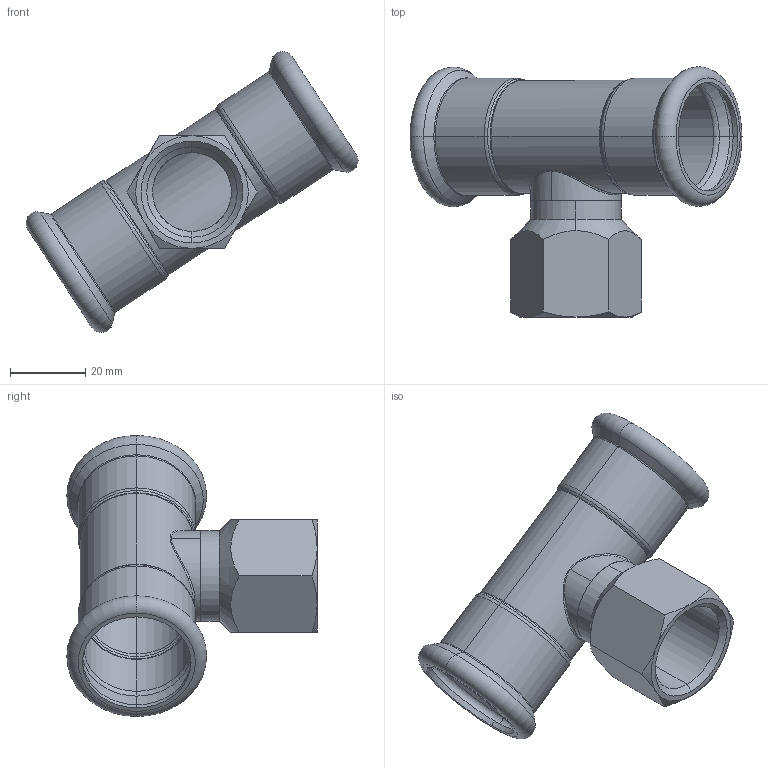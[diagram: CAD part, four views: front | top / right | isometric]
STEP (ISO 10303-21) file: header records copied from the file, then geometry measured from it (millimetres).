
FILE_DESCRIPTION (( 'STEP AP203' ), '1' );
FILE_NAME ('GDA5247.STEP', '2019-01-14T00:55:25', ( '' ), ( '' ), 'SwSTEP 2.0', 'SolidWorks 2015', '' );
FILE_SCHEMA (( 'CONFIG_CONTROL_DESIGN' ));
Length unit declared in the file: millimetre
Products named in the file (3): GDA5247; ITC-I-03-22℅?; T(R)-¢ñ-28¡Á22''
Assembly tree (2 placements, depth 2):
  GDA5247
    ITC-I-03-22℅?
    T(R)-¢ñ-28¡Á22''
Bounding box: 88.35 x 66.6 x 74.78 mm (x, y, z)
Volume: 21179.7 mm3; surface area: 22910.3 mm2
Topology: 2 solids, 2 shells, 103 faces, 218 edges, 122 vertices
Faces by surface type: torus 32, cone 28, cylinder 26, plane 13, bspline 4
Entity records: 4204 total; most frequent: CARTESIAN_POINT 1671, DIRECTION 526, ORIENTED_EDGE 436, AXIS2_PLACEMENT_3D 236, EDGE_CURVE 218, CIRCLE 132, VERTEX_POINT 122, EDGE_LOOP 112
